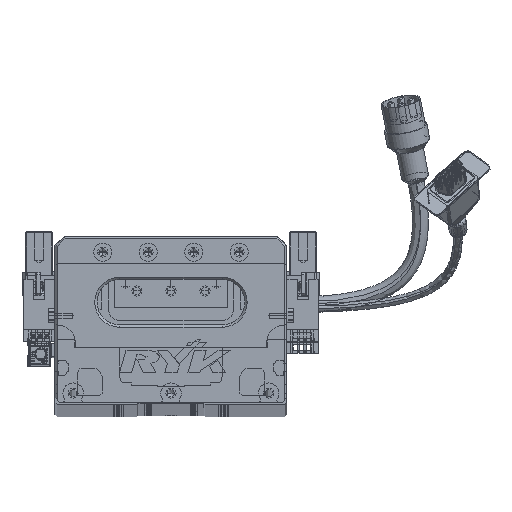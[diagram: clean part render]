
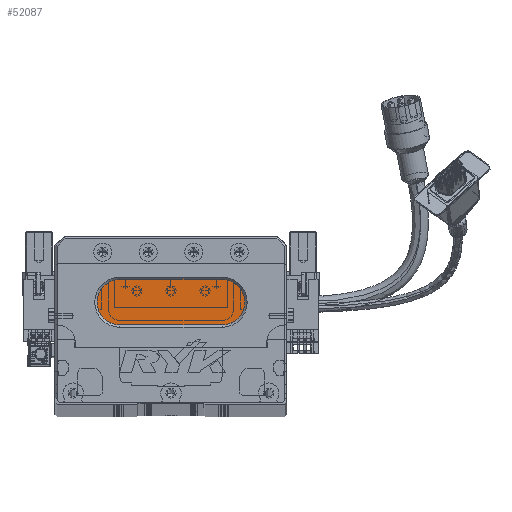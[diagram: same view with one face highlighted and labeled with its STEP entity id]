
A CAD part, top view. The second image highlights one B-rep face of the part: STEP entity #52087.
In plain terms, the highlighted planar face has unit normal (0, 0, 1) as drawn and (0, 0, -1) by its records, which use the part's own axes.
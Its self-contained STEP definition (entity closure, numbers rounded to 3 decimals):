
#438 = PLANE ( 'NONE',  #16291 ) ;
#1291 = DIRECTION ( 'NONE',  ( 0., 0., -1. ) ) ;
#2069 = LINE ( 'NONE', #82088, #8763 ) ;
#4036 = CARTESIAN_POINT ( 'NONE',  ( 73.5, 44., 13. ) ) ;
#4358 = ORIENTED_EDGE ( 'NONE', *, *, #87209, .T. ) ;
#5981 = EDGE_CURVE ( 'NONE', #42439, #69538, #89488, .T. ) ;
#6153 = CIRCLE ( 'NONE', #29408, 10. ) ;
#7294 = DIRECTION ( 'NONE',  ( 0., 0., -1. ) ) ;
#8763 = VECTOR ( 'NONE', #31987, 1000. ) ;
#9689 = LINE ( 'NONE', #29134, #19689 ) ;
#10752 = VERTEX_POINT ( 'NONE', #28991 ) ;
#15601 = DIRECTION ( 'NONE',  ( -1., 0., 0. ) ) ;
#16291 = AXIS2_PLACEMENT_3D ( 'NONE', #85431, #7294, #29710 ) ;
#19689 = VECTOR ( 'NONE', #86108, 1000. ) ;
#20887 = EDGE_LOOP ( 'NONE', ( #53686, #4358, #50206, #66415, #70805 ) ) ;
#24358 = FACE_OUTER_BOUND ( 'NONE', #20887, .T. ) ;
#28991 = CARTESIAN_POINT ( 'NONE',  ( 28.5, 54., 13. ) ) ;
#29134 = CARTESIAN_POINT ( 'NONE',  ( 73.5, 34., 13. ) ) ;
#29408 = AXIS2_PLACEMENT_3D ( 'NONE', #61029, #83089, #61946 ) ;
#29522 = EDGE_CURVE ( 'NONE', #10752, #42439, #2069, .T. ) ;
#29710 = DIRECTION ( 'NONE',  ( -1., 0., 0. ) ) ;
#31987 = DIRECTION ( 'NONE',  ( 1., 0., 0. ) ) ;
#32365 = DIRECTION ( 'NONE',  ( 0., 0., -1. ) ) ;
#33869 = AXIS2_PLACEMENT_3D ( 'NONE', #4036, #32365, #68159 ) ;
#34029 = CARTESIAN_POINT ( 'NONE',  ( 73.5, 54., 13. ) ) ;
#34704 = AXIS2_PLACEMENT_3D ( 'NONE', #87196, #1291, #15601 ) ;
#35977 = EDGE_CURVE ( 'NONE', #66598, #10752, #6153, .T. ) ;
#42439 = VERTEX_POINT ( 'NONE', #34029 ) ;
#47312 = CARTESIAN_POINT ( 'NONE',  ( 18.5, 44., 13. ) ) ;
#49714 = CARTESIAN_POINT ( 'NONE',  ( 73.5, 34., 13. ) ) ;
#50206 = ORIENTED_EDGE ( 'NONE', *, *, #79104, .T. ) ;
#52087 = ADVANCED_FACE ( 'NONE', ( #24358 ), #438, .T. ) ;
#53686 = ORIENTED_EDGE ( 'NONE', *, *, #5981, .T. ) ;
#61029 = CARTESIAN_POINT ( 'NONE',  ( 28.5, 44., 13. ) ) ;
#61946 = DIRECTION ( 'NONE',  ( -1., 0., 0. ) ) ;
#66415 = ORIENTED_EDGE ( 'NONE', *, *, #35977, .T. ) ;
#66598 = VERTEX_POINT ( 'NONE', #47312 ) ;
#68159 = DIRECTION ( 'NONE',  ( -1., 0., 0. ) ) ;
#69538 = VERTEX_POINT ( 'NONE', #49714 ) ;
#69772 = VERTEX_POINT ( 'NONE', #72995 ) ;
#70460 = CIRCLE ( 'NONE', #34704, 10. ) ;
#70805 = ORIENTED_EDGE ( 'NONE', *, *, #29522, .T. ) ;
#72995 = CARTESIAN_POINT ( 'NONE',  ( 28.5, 34., 13. ) ) ;
#79104 = EDGE_CURVE ( 'NONE', #69772, #66598, #70460, .T. ) ;
#82088 = CARTESIAN_POINT ( 'NONE',  ( 73.5, 54., 13. ) ) ;
#83089 = DIRECTION ( 'NONE',  ( 0., 0., -1. ) ) ;
#85431 = CARTESIAN_POINT ( 'NONE',  ( 73.5, 44., 13. ) ) ;
#86108 = DIRECTION ( 'NONE',  ( -1., 0., 0. ) ) ;
#87196 = CARTESIAN_POINT ( 'NONE',  ( 28.5, 44., 13. ) ) ;
#87209 = EDGE_CURVE ( 'NONE', #69538, #69772, #9689, .T. ) ;
#89488 = CIRCLE ( 'NONE', #33869, 10. ) ;
